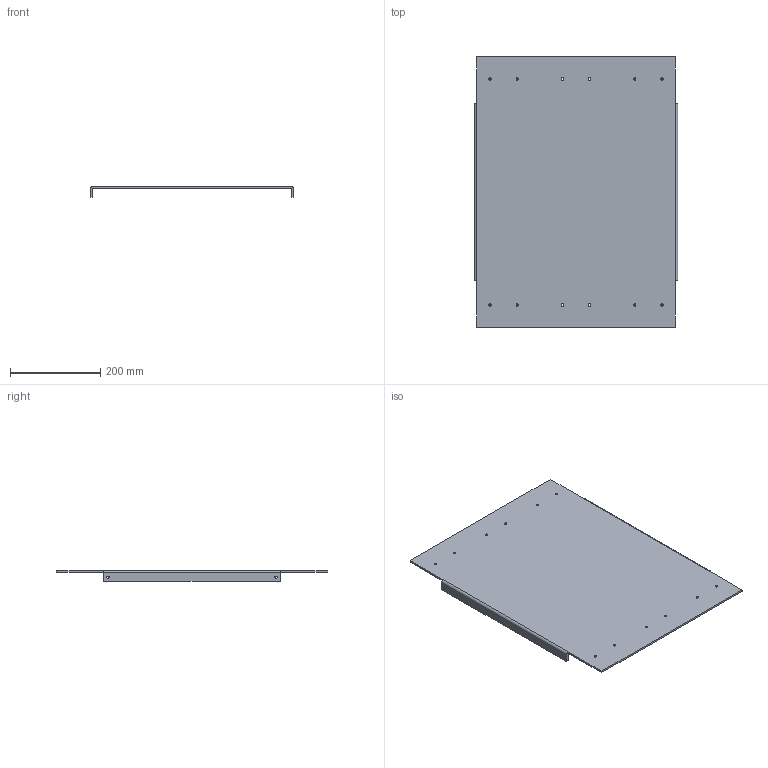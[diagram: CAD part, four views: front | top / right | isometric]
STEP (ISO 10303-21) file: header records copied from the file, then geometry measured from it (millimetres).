
FILE_DESCRIPTION(('HOOPS Exchange Step'),'2;1');
FILE_NAME('/private/var/mobile/Containers/Data/Application/E4481369-A8C6-45C6-A958-B1853E49479D/tmp/export/temp_export','2021-04-12T20:59:24+00:00',('mobile'),('Shapr3D Limited'),'HOOPS Exchange 2020.2','Shapr3D','Authorized');
FILE_SCHEMA( ('AP203_CONFIGURATION_CONTROLLED_3D_DESIGN_OF_MECHANICAL_PARTS_AND_ASSEMBLIES_MIM_LF') );
Length unit declared in the file: millimetre
Products named in the file (2): 0; /private/var/mobile/Containers/Data/Application/E4481369-A8C6-45C6-A958-B1853E49479D/tmp/CCA060F1-0545-4F76-8FFD-0B30CC720E09.tmp
Assembly tree (1 placements, depth 2):
  /private/var/mobile/Containers/Data/Application/E4481369-A8C6-45C6-A958-B1853E49479D/tmp/CCA060F1-0545-4F76-8FFD-0B30CC720E09.tmp
    0
Bounding box: 450 x 600 x 24 mm (x, y, z)
Volume: 1128996 mm3; surface area: 574229.2 mm2
Topology: 1 solids, 1 shells, 46 faces, 144 edges, 100 vertices
Faces by surface type: cylinder 28, plane 18
Full cylindrical faces by diameter (mm): 5.2 x16
Entity records: 1771 total; most frequent: DIRECTION 318, CARTESIAN_POINT 293, ORIENTED_EDGE 288, EDGE_CURVE 144, AXIS2_PLACEMENT_3D 125, VERTEX_POINT 100, EDGE_LOOP 78, FACE_BOUND 78
